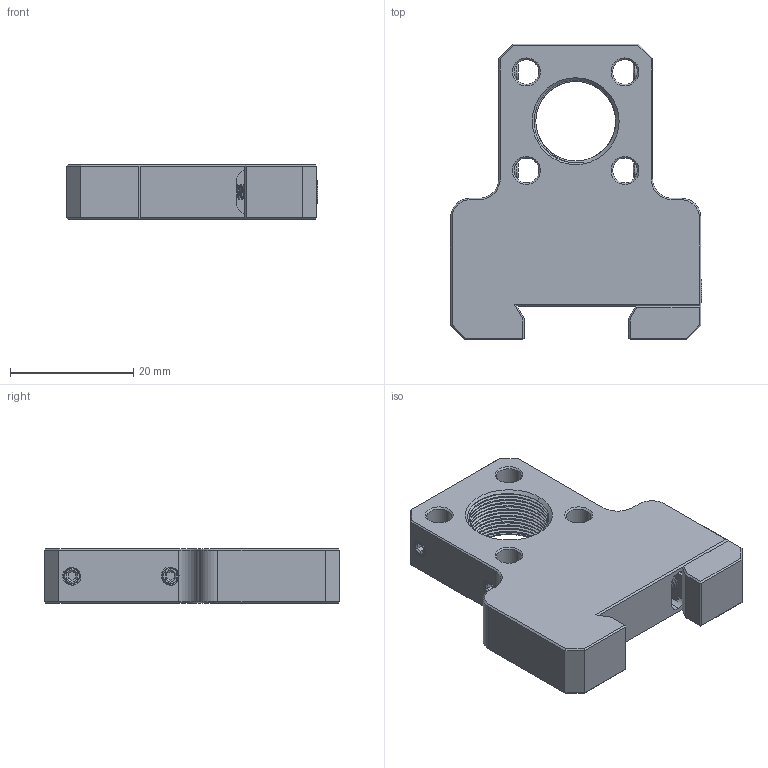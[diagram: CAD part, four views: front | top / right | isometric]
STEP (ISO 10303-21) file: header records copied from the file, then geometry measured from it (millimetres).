
FILE_DESCRIPTION((''),'2;1');
FILE_NAME('LRA16-A_ASM','2024-12-04T15:34:31',('R&D'),(''),'CREO PARAMETRIC BY PTC INC, 2021063','CREO PARAMETRIC BY PTC INC, 2021063','');
FILE_SCHEMA(('CONFIG_CONTROL_DESIGN'));
Products named in the file (11): LRA16-A-A3; LRA16-A-A4; LRA16-A-A5; LRA16-A-A6; LRA16-A-A7; LRA16-A-A8; LRA16-A-A9; LRA16-A-B1; LRA16-A-A2_ASM; LRA16-A-A1_ASM; LRA16-A_ASM
Assembly tree (10 placements, depth 4):
  LRA16-A_ASM
    LRA16-A-A1_ASM
      LRA16-A-A2_ASM
        LRA16-A-A3
        LRA16-A-A4
        LRA16-A-A5
        LRA16-A-A6
        LRA16-A-A7
        LRA16-A-A8
        LRA16-A-A9
        LRA16-A-B1
Bounding box: 40.74 x 47.96 x 8.9 mm (x, y, z)
Volume: 11027.8 mm3; surface area: 6267.8 mm2
Topology: 8 solids, 8 shells, 611 faces, 1601 edges, 1008 vertices
Faces by surface type: cylinder 259, plane 161, bspline 122, cone 65, extrusion 4
Entity records: 50867 total; most frequent: CARTESIAN_POINT 37362, ORIENTED_EDGE 3198, DIRECTION 2023, EDGE_CURVE 1599, VERTEX_POINT 1008, B_SPLINE_CURVE_WITH_KNOTS 752, VECTOR 717, LINE 713
